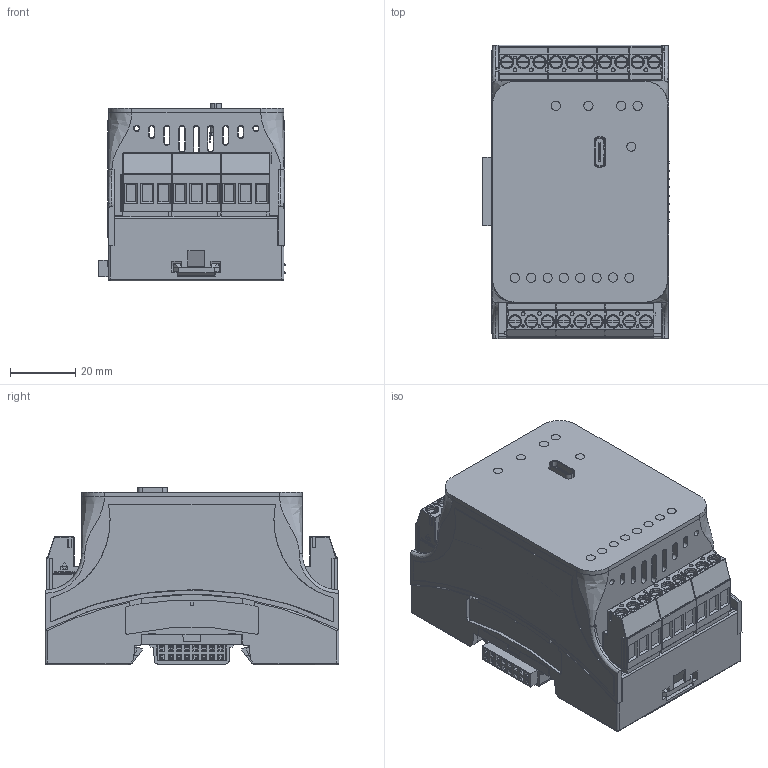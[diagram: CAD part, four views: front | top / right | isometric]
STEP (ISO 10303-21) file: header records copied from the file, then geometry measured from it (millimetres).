
FILE_DESCRIPTION(/* description */ (''),/* implementation_level */ '2;1');
FILE_NAME(/* name */ 'D:\WorkIMT\Project IMT\МВВ\v1\3D на сайт\BASE (USB).stp',/* time_stamp */ '2026-06-09T08:47:19+03:00',/* author */ ('admin'),/* organization */ (''),/* preprocessor_version */ 'ST-DEVELOPER v17.2',/* originating_system */ 'Autodesk Inventor 2019',/* authorisation */ '');
FILE_SCHEMA (('AUTOMOTIVE_DESIGN { 1 0 10303 214 3 1 1 }'));
Products named in the file (1): MT.GARA-DIN.BASE.220V.USB.XX.XX 2
Bounding box: 57.13 x 89.74 x 54.42 mm (x, y, z)
Volume: 69881.2 mm3; surface area: 77104 mm2
Topology: 3 solids, 65 shells, 7791 faces, 21531 edges, 13904 vertices
Faces by surface type: plane 6403, cylinder 755, bspline 226, cone 210, torus 138, sphere 59
Full cylindrical faces by diameter (mm): 0.2 x197, 0.3 x1, 0.4 x1, 1.2 x18, 1.8 x3, 2.2 x8, 4.05 x19
Entity records: 269923 total; most frequent: CARTESIAN_POINT 63801, ORIENTED_EDGE 42940, DIRECTION 38410, EDGE_CURVE 21470, LINE 17762, VECTOR 17762, VERTEX_POINT 13904, AXIS2_PLACEMENT_3D 10324
